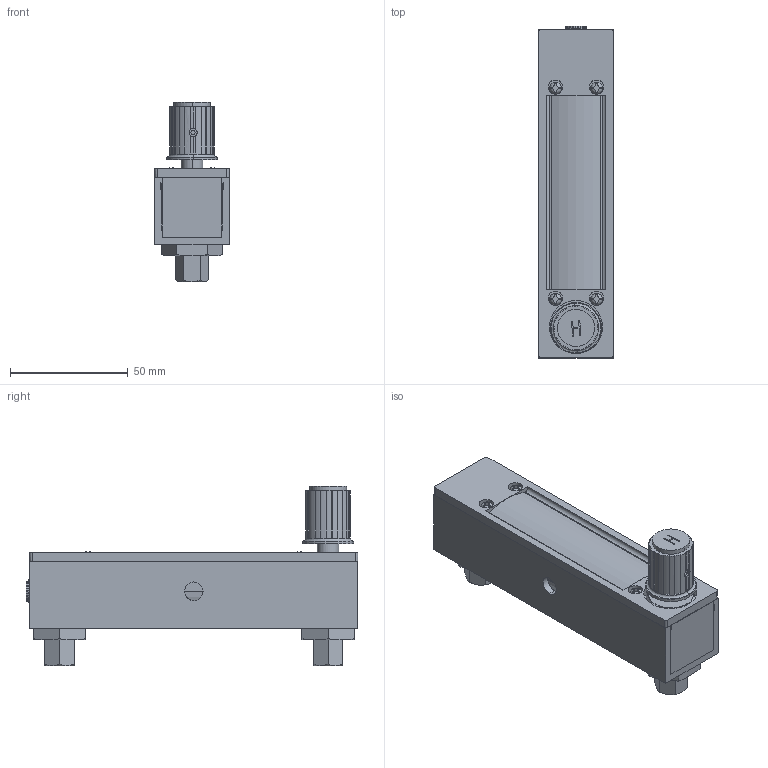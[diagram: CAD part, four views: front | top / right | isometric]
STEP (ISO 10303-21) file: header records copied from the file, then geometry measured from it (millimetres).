
FILE_DESCRIPTION (( 'STEP AP203' ), '1' );
FILE_NAME ('1350G-F-T-1-A.STEP', '2022-08-04T17:57:29', ( '' ), ( '' ), 'SwSTEP 2.0', 'SolidWorks 2020', '' );
FILE_SCHEMA (( 'CONFIG_CONTROL_DESIGN' ));
Products named in the file (1): 1350G-F-T-1-A
Bounding box: 31.75 x 141.22 x 76.51 mm (x, y, z)
Volume: 106030.5 mm3; surface area: 82163.3 mm2
Topology: 33 solids, 33 shells, 1440 faces, 3702 edges, 2390 vertices
Faces by surface type: plane 690, cylinder 406, cone 141, bspline 127, torus 66, sphere 10
Entity records: 50643 total; most frequent: CARTESIAN_POINT 16236, ORIENTED_EDGE 7350, DIRECTION 6734, EDGE_CURVE 3675, VERTEX_POINT 2387, AXIS2_PLACEMENT_3D 2329, LINE 2076, VECTOR 2076
